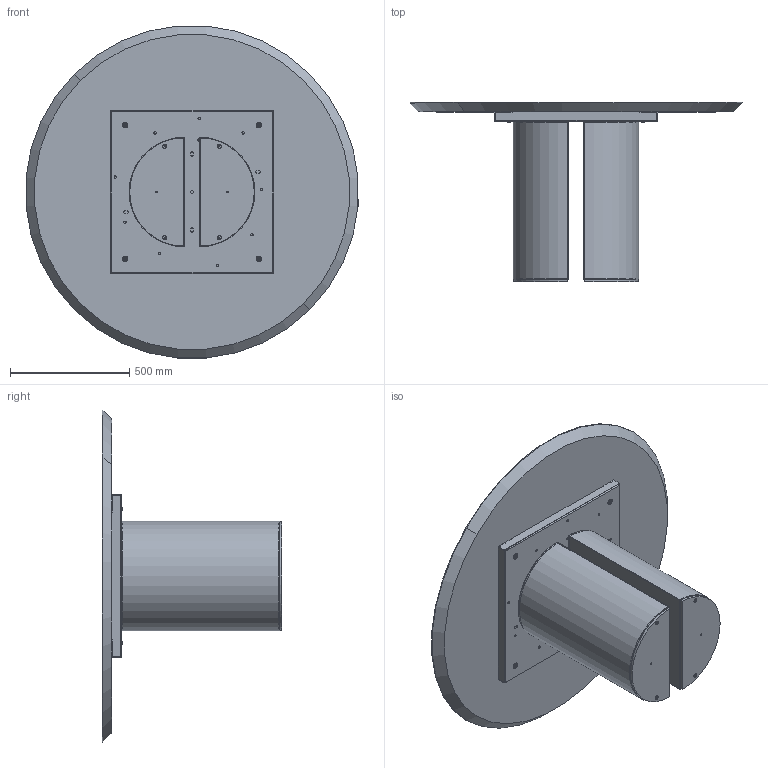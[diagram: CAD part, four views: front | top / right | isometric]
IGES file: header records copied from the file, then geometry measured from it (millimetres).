
Start section: SolidWorks IGES file using analytic representation for surfaces
Global section: file name: Y:\eforma\TECNICO\SOLIDWORKS\E-FORMA\1-TAVOLI\DORA\02 parts\DR06W.IGS; native system: SolidWorks 2022; preprocessor: SolidWorks 2022; author: eforma.tech; date: 240806.150030; units: millimetre
Bounding box: 1394.67 x 754 x 1394.67 mm (x, y, z)
Volume: 66462580.8 mm3; surface area: 8211734.2 mm2
Topology: 28 solids, 28 shells, 864 faces, 2142 edges, 1322 vertices
Faces by surface type: revolution 458, plane 406
